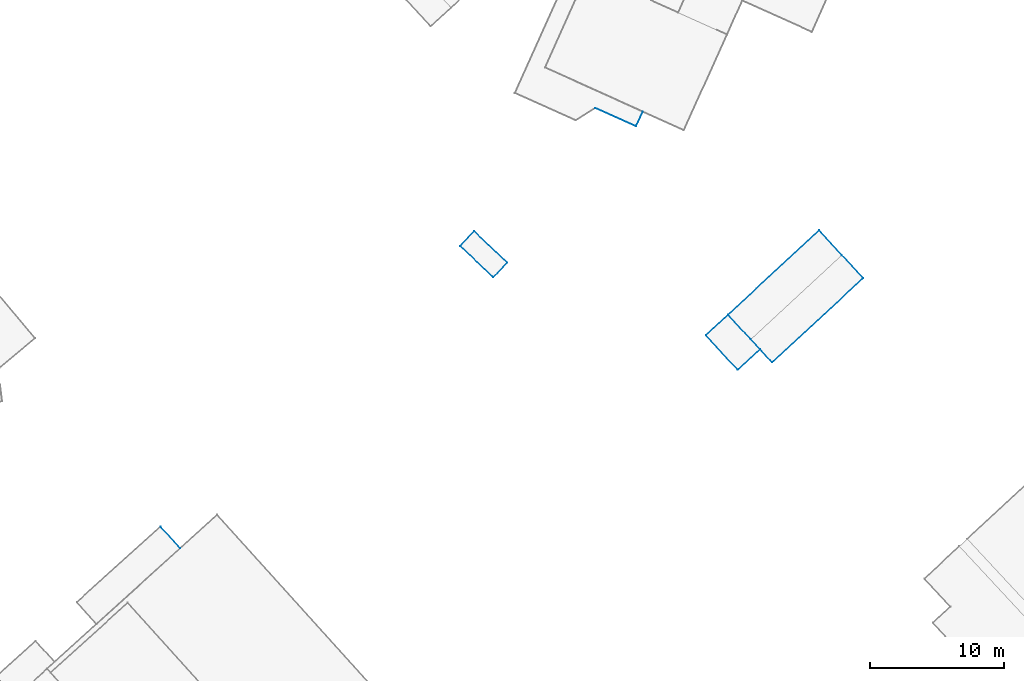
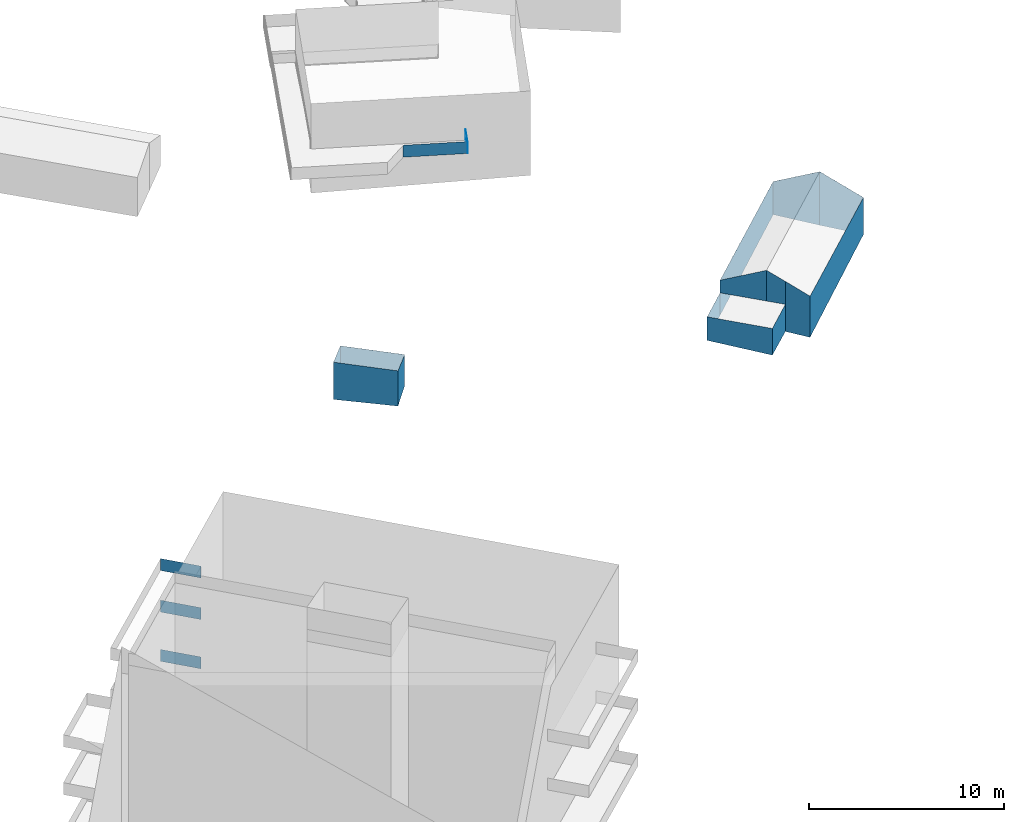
# Not in any storey, part 56 of 136: 24 walls.
"""IFC2X3 building model written with IfcOpenShell, lengths in metres."""

from ifc_helpers import new_model, entity, si_unit, converted_unit, frame, origin, place, context, subcontext, project, spatial, face_set, surface_model, element, save


model = new_model("IFC2X3")

# Units and contexts
model_context = context("Model", 3, precision=1e-05, world=origin())
body_context = subcontext(model_context, "Body", "Model", "MODEL_VIEW")
ifc_project = project(units=[converted_unit("PLANEANGLEUNIT", "DEGREE", entity("IfcRatioMeasure", 0.0174532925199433), si_unit("PLANEANGLEUNIT", "RADIAN"), dimensions=[0, 0, 0, 0, 0, 0, 0]), si_unit("AREAUNIT", "SQUARE_METRE"), si_unit("LENGTHUNIT", "METRE")], contexts=[model_context])

# Site, building
site_placement = place(None, origin())
site = spatial("IfcSite", under=ifc_project, at=site_placement, Name="_site", CompositionType="ELEMENT")
building_1_placement = place(site_placement, origin())
building_1 = spatial("IfcBuilding", under=site, at=building_1_placement, Name="_building", CompositionType="ELEMENT")

# Walls
wall_1_placement = place(building_1_placement, origin())
element("IfcWall", 1, at=wall_1_placement, inside=building_1, Name="Wall", context=body_context, shape_type="SurfaceModel", body=[
    surface_model("IfcFaceBasedSurfaceModel", [(104.11, 76.79, 40.36), (101.63, 79.12, 40.36), (101.63, 79.12, 38.027), (104.11, 76.79, 38.151)], [face_set([[[0, 1, 2, 3]]])]),
])
wall_2_placement = place(building_1_placement, origin())
element("IfcWall", 2, at=wall_2_placement, inside=building_1, Name="Wall", context=body_context, shape_type="SurfaceModel", body=[
    surface_model("IfcFaceBasedSurfaceModel", [(102.67, 80.22, 40.36), (105.14, 77.88, 40.36), (105.14, 77.88, 38.428), (102.67, 80.22, 38.254)], [face_set([[[0, 1, 2, 3]]])]),
])
wall_3_placement = place(building_1_placement, origin())
element("IfcWall", 3, at=wall_3_placement, inside=building_1, Name="Wall", context=body_context, shape_type="SurfaceModel", body=[
    surface_model("IfcFaceBasedSurfaceModel", [(101.63, 79.12, 40.36), (102.67, 80.22, 40.36), (102.67, 80.22, 38.254), (101.63, 79.12, 38.027)], [face_set([[[0, 1, 2, 3]]])]),
])
wall_4_placement = place(building_1_placement, origin())
element("IfcWall", 4, at=wall_4_placement, inside=building_1, Name="Wall", context=body_context, shape_type="SurfaceModel", body=[
    surface_model("IfcFaceBasedSurfaceModel", [(105.14, 77.88, 40.36), (104.11, 76.79, 40.36), (104.11, 76.79, 38.151), (105.14, 77.88, 38.428)], [face_set([[[0, 1, 2, 3]]])]),
])

# Building
building_2_placement = place(site_placement, origin())
building_2 = spatial("IfcBuilding", under=site, at=building_2_placement, Name="_building", CompositionType="ELEMENT")

# Walls
wall_5_placement = place(building_2_placement, origin())
element("IfcWall", 5, at=wall_5_placement, inside=building_2, Name="Wall", context=body_context, shape_type="SurfaceModel", body=[
    surface_model("IfcFaceBasedSurfaceModel", [(121.62, 74.0, 41.61), (128.41, 80.3, 41.61), (128.41, 80.3, 39.53), (121.62, 74.0, 39.408)], [face_set([[[0, 1, 2, 3]]])]),
])
wall_6_placement = place(building_2_placement, origin())
element("IfcWall", 6, at=wall_6_placement, inside=building_2, Name="Wall", context=body_context, shape_type="SurfaceModel", body=[
    surface_model("IfcFaceBasedSurfaceModel", [(124.91, 70.45, 41.61), (124.01, 71.43, 42.26), (124.01, 71.43, 39.119), (124.91, 70.45, 39.03)], [face_set([[[0, 1, 2, 3]]])]),
])
wall_7_placement = place(building_2_placement, origin())
element("IfcWall", 7, at=wall_7_placement, inside=building_2, Name="Wall", context=body_context, shape_type="SurfaceModel", body=[
    surface_model("IfcFaceBasedSurfaceModel", [(131.71, 76.74, 41.61), (124.91, 70.45, 41.61), (124.91, 70.45, 39.03), (131.71, 76.74, 39.289)], [face_set([[[0, 1, 2, 3]]])]),
])
wall_8_placement = place(building_2_placement, origin())
element("IfcWall", 8, at=wall_8_placement, inside=building_2, Name="Wall", context=body_context, shape_type="SurfaceModel", body=[
    surface_model("IfcFaceBasedSurfaceModel", [(124.01, 71.43, 42.26), (123.32, 72.17, 42.75), (123.32, 72.17, 40.82), (124.01, 71.43, 40.82)], [face_set([[[0, 1, 2, 3]]])]),
])
wall_9_placement = place(building_2_placement, origin())
element("IfcWall", 9, at=wall_9_placement, inside=building_2, Name="Wall", context=body_context, shape_type="SurfaceModel", body=[
    surface_model("IfcFaceBasedSurfaceModel", [(130.11, 78.46, 42.75), (131.71, 76.74, 41.61), (131.71, 76.74, 39.289), (130.11, 78.46, 39.385)], [face_set([[[0, 1, 2, 3]]])]),
])
wall_10_placement = place(building_2_placement, origin())
element("IfcWall", 10, at=wall_10_placement, inside=building_2, Name="Wall", context=body_context, shape_type="SurfaceModel", body=[
    surface_model("IfcFaceBasedSurfaceModel", [(123.32, 72.17, 42.75), (121.62, 74.0, 41.61), (121.62, 74.0, 40.82), (123.32, 72.17, 40.82)], [face_set([[[0, 1, 2, 3]]])]),
])
wall_11_placement = place(building_2_placement, origin())
element("IfcWall", 11, at=wall_11_placement, inside=building_2, Name="Wall", context=body_context, shape_type="SurfaceModel", body=[
    surface_model("IfcFaceBasedSurfaceModel", [(124.01, 71.43, 40.82), (122.35, 69.89, 40.82), (122.35, 69.89, 39.148), (124.01, 71.43, 39.119)], [face_set([[[0, 1, 2, 3]]])]),
])
wall_12_placement = place(building_2_placement, origin())
element("IfcWall", 12, at=wall_12_placement, inside=building_2, Name="Wall", context=body_context, shape_type="SurfaceModel", body=[
    surface_model("IfcFaceBasedSurfaceModel", [(119.97, 72.47, 40.82), (121.62, 74.0, 40.82), (121.62, 74.0, 39.408), (119.97, 72.47, 39.343)], [face_set([[[0, 1, 2, 3]]])]),
])
wall_13_placement = place(building_2_placement, origin())
element("IfcWall", 13, at=wall_13_placement, inside=building_2, Name="Wall", context=body_context, shape_type="SurfaceModel", body=[
    surface_model("IfcFaceBasedSurfaceModel", [(122.35, 69.89, 40.82), (119.97, 72.47, 40.82), (119.97, 72.47, 39.343), (122.35, 69.89, 39.148)], [face_set([[[0, 1, 2, 3]]])]),
])
wall_14_placement = place(building_2_placement, origin())
element("IfcWall", 14, at=wall_14_placement, inside=building_2, Name="Wall", context=body_context, shape_type="SurfaceModel", body=[
    surface_model("IfcFaceBasedSurfaceModel", [(128.41, 80.3, 41.61), (130.11, 78.46, 42.75), (130.11, 78.46, 39.385), (128.41, 80.3, 39.53)], [face_set([[[0, 1, 2, 3]]])]),
])

# Building
building_3_placement = place(site_placement, origin())
building_3 = spatial("IfcBuilding", under=site, at=building_3_placement, Name="_building", CompositionType="ELEMENT")

# Walls
wall_15_placement = place(building_3_placement, origin())
element("IfcWall", 15, at=wall_15_placement, inside=building_3, Name="Wall", context=body_context, shape_type="SurfaceModel", body=[
    surface_model("IfcFaceBasedSurfaceModel", [(115.25, 89.15, 43.45), (114.75, 88.05, 43.45), (114.75, 88.05, 44.2), (115.25, 89.15, 44.2)], [face_set([[[0, 1, 2, 3]]])]),
])
for number, where, name in (
    (16, (0.0, 0.0, 0.0), "Wall"),
    (17, (0.0, 0.0, 0.0), "Wall"),
):
    element("IfcWall", number, at=place(building_3_placement, frame(where)), inside=building_3, Name=name, context=body_context, shape_type="SurfaceModel", body=[
        surface_model("IfcFaceBasedSurfaceModel", [(114.75, 88.05, 43.45), (111.71, 89.42, 43.45), (111.71, 89.42, 44.2), (114.75, 88.05, 44.2)], [face_set([[[0, 1, 2, 3]]])]),
    ])
wall_16_placement = place(building_3_placement, origin())
element("IfcWall", 18, at=wall_16_placement, inside=building_3, Name="Wall", context=body_context, shape_type="SurfaceModel", body=[
    surface_model("IfcFaceBasedSurfaceModel", [(115.25, 89.15, 43.45), (114.75, 88.05, 43.45), (114.75, 88.05, 44.2), (115.25, 89.15, 44.2)], [face_set([[[0, 1, 2, 3]]])]),
])

# Building
building_4_placement = place(site_placement, origin())
building_4 = spatial("IfcBuilding", under=site, at=building_4_placement, Name="_building", CompositionType="ELEMENT")

# Walls
for number, where, name in (
    (19, (0.0, 0.0, 0.0), "Wall"),
    (20, (0.0, 0.0, 0.0), "Wall"),
):
    element("IfcWall", number, at=place(building_4_placement, frame(where)), inside=building_4, Name=name, context=body_context, shape_type="SurfaceModel", body=[
        surface_model("IfcFaceBasedSurfaceModel", [(79.29, 58.21, 47.79), (80.76, 56.58, 47.79), (80.76, 56.58, 48.54), (79.29, 58.21, 48.54)], [face_set([[[0, 1, 2, 3]]])]),
    ])
for number, where, name in (
    (21, (0.0, 0.0, 0.0), "Wall"),
    (22, (0.0, 0.0, 0.0), "Wall"),
):
    element("IfcWall", number, at=place(building_4_placement, frame(where)), inside=building_4, Name=name, context=body_context, shape_type="SurfaceModel", body=[
        surface_model("IfcFaceBasedSurfaceModel", [(79.29, 58.21, 42.09), (80.76, 56.58, 42.09), (80.76, 56.58, 42.84), (79.29, 58.21, 42.84)], [face_set([[[0, 1, 2, 3]]])]),
    ])
for number, where, name in (
    (23, (0.0, 0.0, 0.0), "Wall"),
    (24, (0.0, 0.0, 0.0), "Wall"),
):
    element("IfcWall", number, at=place(building_4_placement, frame(where)), inside=building_4, Name=name, context=body_context, shape_type="SurfaceModel", body=[
        surface_model("IfcFaceBasedSurfaceModel", [(79.29, 58.21, 45.18), (80.76, 56.58, 45.18), (80.76, 56.58, 45.93), (79.29, 58.21, 45.93)], [face_set([[[0, 1, 2, 3]]])]),
    ])

save(model, "model.ifc")
